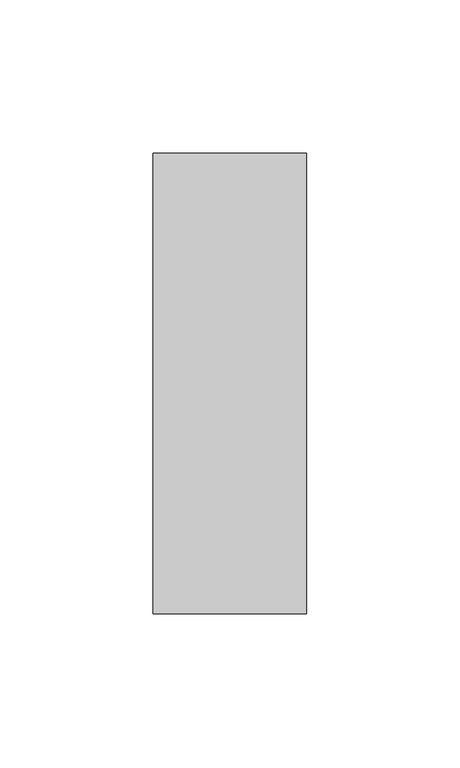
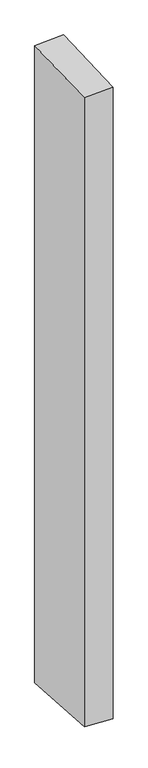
"""IFC4 building model written with IfcOpenShell, lengths in millimetres: member geometry, Прямоугольный импост : 50 x 150 мм."""

from ifc_helpers import new_model, si_unit, origin, place, context, project, spatial, faceted_brep, source, transform, mapped, element, save


def member_b4b5094d(model_context):
    return source(origin(), model_context, "Body", "Brep", [
        faceted_brep([(-25.0, 75.0, 1.6719024), (25.0, 75.0, 3.8075599), (25.0, 75.0, -1175.7637864), (-25.0, 75.0, -1173.4107392), (-25.0, -75.0, -3.8075599), (-25.0, -75.0, -1164.1278369), (25.0, -75.0, -1.6719024), (25.0, -75.0, -1166.4808841)], [[[0, 1, 2, 3]], [[4, 0, 3, 5]], [[6, 4, 5, 7]], [[1, 6, 7, 2]], [[1, 0, 4, 6]], [[2, 7, 5, 3]]]),
    ])


if __name__ == "__main__":
    model = new_model("IFC4")
    model_context = context("Model", 3, world=origin())
    ifc_project = project(units=[si_unit("LENGTHUNIT", "METRE", prefix="MILLI")], contexts=[model_context])
    site = spatial("IfcSite", under=ifc_project)
    building = spatial("IfcBuilding", under=site)
    placement = place(None, origin())
    member_shape = member_b4b5094d(model_context)
    element("IfcMember", 1, ObjectType="Прямоугольный импост : 50 x 150 мм", at=placement, inside=building, context=model_context, shape_type="MappedRepresentation", body=[
        mapped(member_shape, transform((0.0, 0.0, 0.0), x_axis=(1.0, 0.0, 0.0), y_axis=(0.0, 1.0, 0.0), z_axis=(0.0, 0.0, 1.0))),
    ])
    save(model, "model.ifc")
